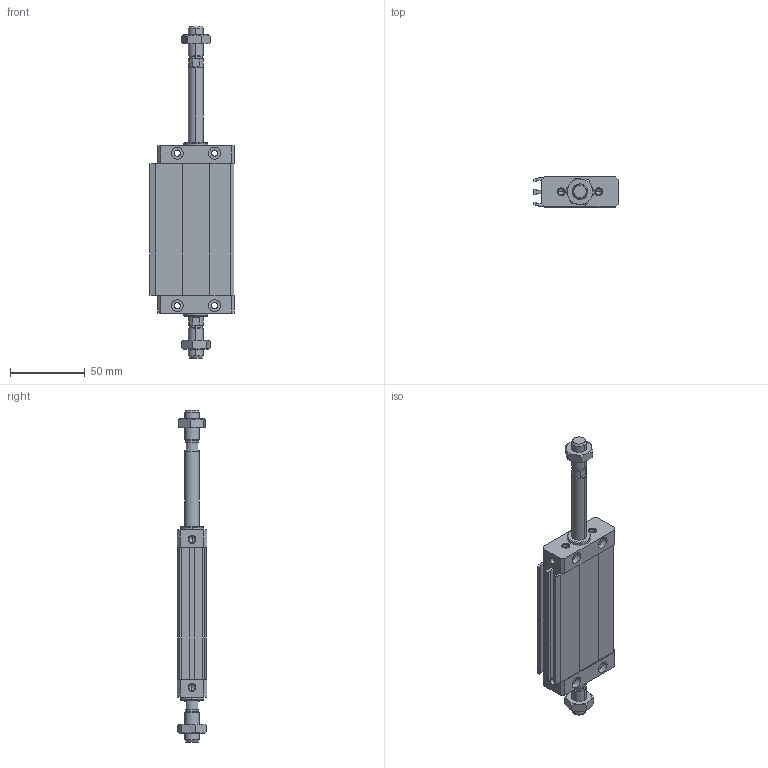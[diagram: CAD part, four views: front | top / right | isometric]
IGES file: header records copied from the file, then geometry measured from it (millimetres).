
Global section: file name: No Iges File Name specified; native system: Autodesk Inventor 2011; preprocessor: AutoDesk Inventor Iges Exporter R2011; author: airolcr1; date: 20101213.152805; units: millimetre
Bounding box: 56.25 x 20 x 222 mm (x, y, z)
Volume: 97548.3 mm3; surface area: 47687.6 mm2
Topology: 6 solids, 6 shells, 282 faces, 664 edges, 392 vertices
Faces by surface type: bspline 117, plane 97, cone 36, cylinder 18, revolution 14
